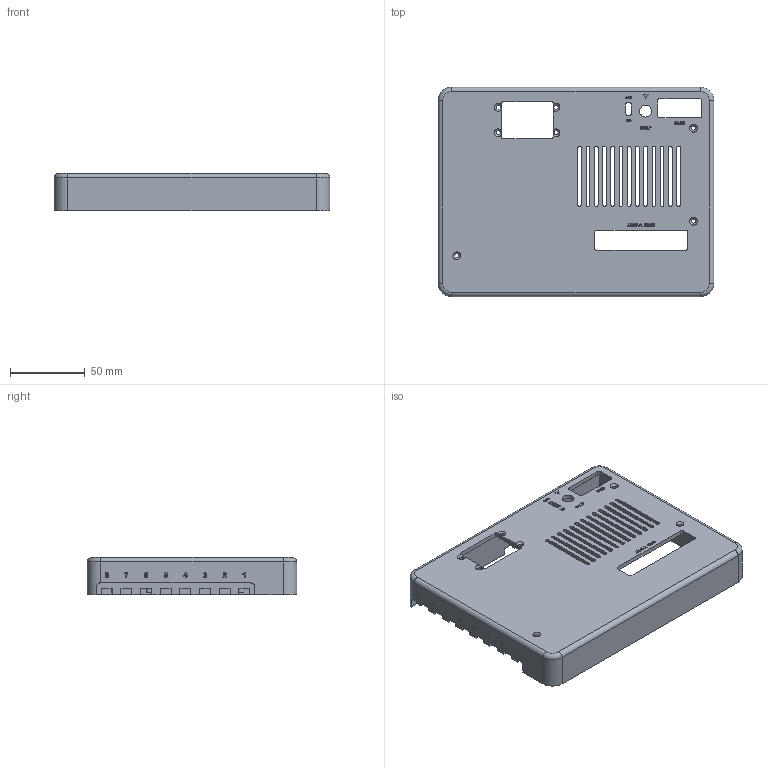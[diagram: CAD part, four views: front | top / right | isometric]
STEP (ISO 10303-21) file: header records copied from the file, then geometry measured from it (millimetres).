
FILE_DESCRIPTION(('Open CASCADE Model'),'2;1');
FILE_NAME('Open CASCADE Shape Model','2026-11-10T13:53:38',('Author'),( 'Open CASCADE'),'Open CASCADE STEP processor 7.7','Open CASCADE 7.7' ,'Unknown');
FILE_SCHEMA(('AUTOMOTIVE_DESIGN { 1 0 10303 214 1 1 1 1 }'));
Products named in the file (1): Open CASCADE STEP translator 7.7 1
Bounding box: 184.1 x 139.7 x 24.7 mm (x, y, z)
Volume: 152079.8 mm3; surface area: 78917.5 mm2
Topology: 1 solids, 1 shells, 1007 faces, 2808 edges, 1869 vertices
Faces by surface type: extrusion 446, plane 436, cylinder 114, cone 7, torus 4
Full cylindrical faces by diameter (mm): 2.9 x7, 3.4 x6, 4 x8, 8 x1, 10.5 x1
Entity records: 69091 total; most frequent: CARTESIAN_POINT 16750, DIRECTION 7863, VECTOR 6061, ORIENTED_EDGE 5616, PCURVE 5616, DEFINITIONAL_REPRESENTATION 5616, LINE 5615, EDGE_CURVE 2808
